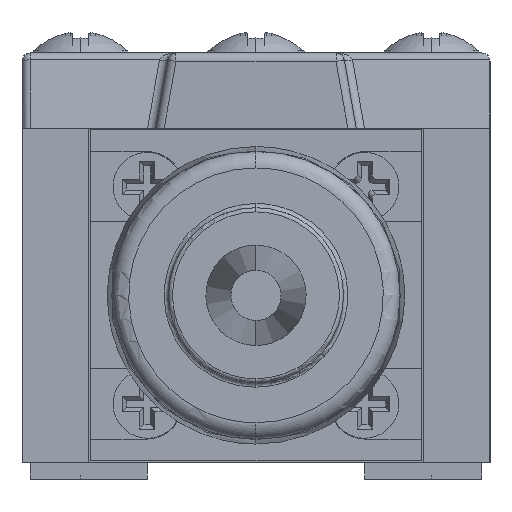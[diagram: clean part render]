
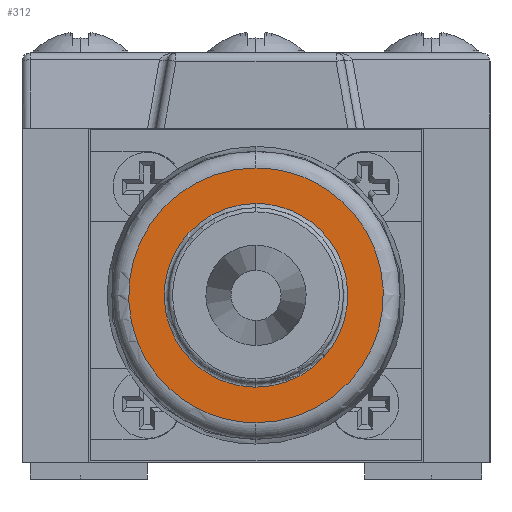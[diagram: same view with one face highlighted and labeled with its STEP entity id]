
A CAD part, left-side view. The second image highlights one B-rep face of the part: STEP entity #312.
In plain terms, the highlighted planar face has unit normal (-1, 0, 0).
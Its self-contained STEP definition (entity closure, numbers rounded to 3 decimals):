
#312=ADVANCED_FACE('',(#2180,#2182),#2184,.T.);
#2180=FACE_BOUND('',#2181,.T.);
#2181=EDGE_LOOP('',(#33750,#33751));
#2182=FACE_OUTER_BOUND('',#2183,.T.);
#2183=EDGE_LOOP('',(#33752,#33753));
#2184=PLANE('',#2185);
#2185=AXIS2_PLACEMENT_3D('',#2186,#2187,#2188);
#2186=CARTESIAN_POINT('',(-13.,0.,0.));
#2187=DIRECTION('',(-1.,0.,0.));
#2188=DIRECTION('',(0.,0.,-1.));
#33750=ORIENTED_EDGE('',*,*,#34971,.F.);
#33751=ORIENTED_EDGE('',*,*,#34972,.F.);
#33752=ORIENTED_EDGE('',*,*,#34898,.T.);
#33753=ORIENTED_EDGE('',*,*,#34973,.T.);
#34898=EDGE_CURVE('',#36169,#36167,#36170,.T.);
#34971=EDGE_CURVE('',#36297,#36298,#36299,.T.);
#34972=EDGE_CURVE('',#36298,#36297,#36300,.T.);
#34973=EDGE_CURVE('',#36167,#36169,#36301,.T.);
#36167=VERTEX_POINT('',#39112);
#36169=VERTEX_POINT('',#39117);
#36170=(BOUNDED_CURVE()B_SPLINE_CURVE(3,
(#39118,#39119,#39120,#39121),
.UNSPECIFIED.,.F.,.F.)B_SPLINE_CURVE_WITH_KNOTS((4,4),
(0.,1.),
.UNSPECIFIED.)CURVE()GEOMETRIC_REPRESENTATION_ITEM()RATIONAL_B_SPLINE_CURVE((1.,
0.333,0.333,1.))REPRESENTATION_ITEM(''));
#36297=VERTEX_POINT('',#39404);
#36298=VERTEX_POINT('',#39405);
#36299=(BOUNDED_CURVE()B_SPLINE_CURVE(3,
(#39406,#39407,#39408,#39409),
.UNSPECIFIED.,.F.,.F.)B_SPLINE_CURVE_WITH_KNOTS((4,4),
(0.,1.),
.UNSPECIFIED.)CURVE()GEOMETRIC_REPRESENTATION_ITEM()RATIONAL_B_SPLINE_CURVE((1.,
0.333,0.333,1.))REPRESENTATION_ITEM(''));
#36300=(BOUNDED_CURVE()B_SPLINE_CURVE(3,
(#39410,#39411,#39412,#39413),
.UNSPECIFIED.,.F.,.F.)B_SPLINE_CURVE_WITH_KNOTS((4,4),
(0.,1.),
.UNSPECIFIED.)CURVE()GEOMETRIC_REPRESENTATION_ITEM()RATIONAL_B_SPLINE_CURVE((1.,
0.333,0.333,1.))REPRESENTATION_ITEM(''));
#36301=(BOUNDED_CURVE()B_SPLINE_CURVE(3,
(#39414,#39415,#39416,#39417),
.UNSPECIFIED.,.F.,.F.)B_SPLINE_CURVE_WITH_KNOTS((4,4),
(0.,1.),
.UNSPECIFIED.)CURVE()GEOMETRIC_REPRESENTATION_ITEM()RATIONAL_B_SPLINE_CURVE((1.,
0.333,0.333,1.))REPRESENTATION_ITEM(''));
#39112=CARTESIAN_POINT('',(-13.,0.,17.62));
#39117=CARTESIAN_POINT('',(-13.,0.,2.38));
#39118=CARTESIAN_POINT('',(-13.,0.,2.38));
#39119=CARTESIAN_POINT('',(-13.,-15.24,2.38));
#39120=CARTESIAN_POINT('',(-13.,-15.24,17.62));
#39121=CARTESIAN_POINT('',(-13.,0.,17.62));
#39404=CARTESIAN_POINT('',(-13.,0.,15.491));
#39405=CARTESIAN_POINT('',(-13.,0.,4.509));
#39406=CARTESIAN_POINT('',(-13.,0.,15.491));
#39407=CARTESIAN_POINT('',(-13.,10.983,15.491));
#39408=CARTESIAN_POINT('',(-13.,10.983,4.509));
#39409=CARTESIAN_POINT('',(-13.,0.,4.509));
#39410=CARTESIAN_POINT('',(-13.,0.,4.509));
#39411=CARTESIAN_POINT('',(-13.,-10.983,4.509));
#39412=CARTESIAN_POINT('',(-13.,-10.983,15.491));
#39413=CARTESIAN_POINT('',(-13.,0.,15.491));
#39414=CARTESIAN_POINT('',(-13.,0.,17.62));
#39415=CARTESIAN_POINT('',(-13.,15.24,17.62));
#39416=CARTESIAN_POINT('',(-13.,15.24,2.38));
#39417=CARTESIAN_POINT('',(-13.,0.,2.38));
